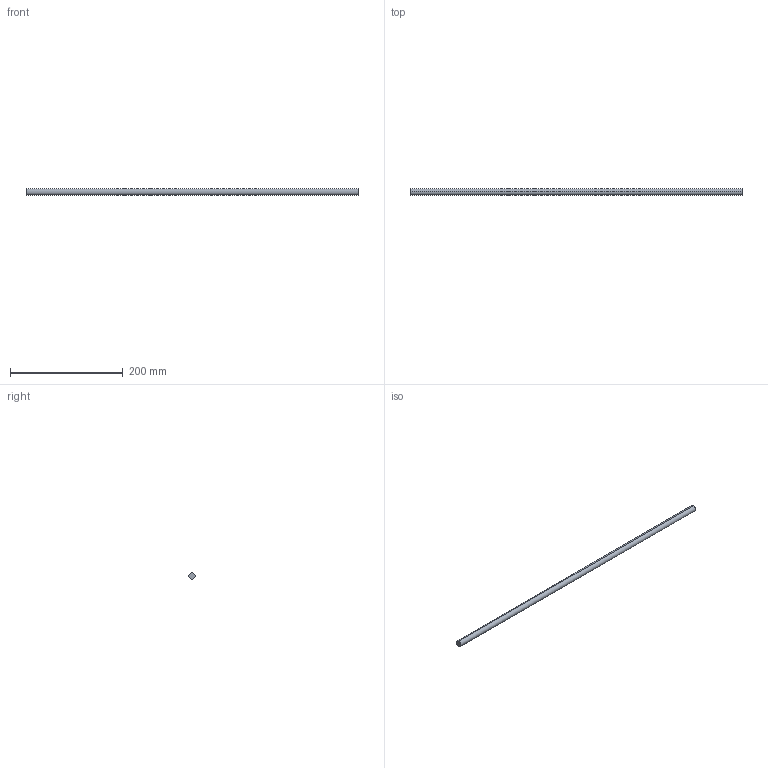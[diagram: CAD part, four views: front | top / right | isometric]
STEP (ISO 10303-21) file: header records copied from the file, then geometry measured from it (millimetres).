
FILE_DESCRIPTION (( 'STEP AP214' ), '1' );
FILE_NAME ('Querreling_Frontblende_Innenlade_KS-16_25mm-Halter_KAB-700.step', '2010-09-22T15:05:40', ( 'grass' ), ( '' ), 'SwSTEP 2.0', 'SolidWorks 2010', '' );
FILE_SCHEMA (( 'AUTOMOTIVE_DESIGN' ));
Length unit declared in the file: millimetre
Products named in the file (1): Querreling_Frontblende_Innenlade_KS-16_25mm-Halter_KAB-700
Bounding box: 590 x 11 x 11 mm (x, y, z)
Volume: 56069.6 mm3; surface area: 20579 mm2
Topology: 1 solids, 1 shells, 4 faces, 6 edges, 4 vertices
Faces by surface type: cylinder 2, plane 2
Entity records: 128 total; most frequent: DIRECTION 20, CARTESIAN_POINT 15, ORIENTED_EDGE 12, AXIS2_PLACEMENT_3D 9, EDGE_CURVE 6, CIRCLE 4, EDGE_LOOP 4, FACE_OUTER_BOUND 4
